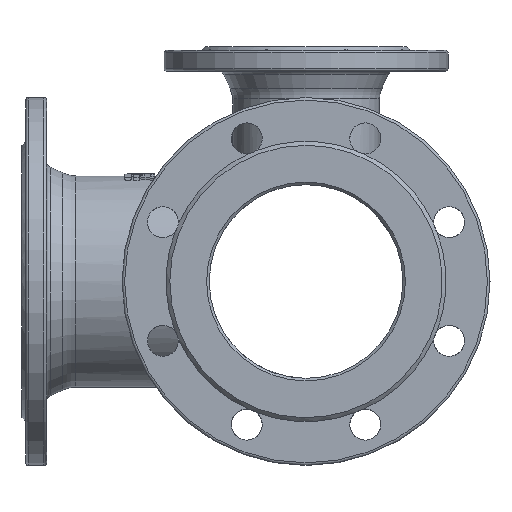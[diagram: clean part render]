
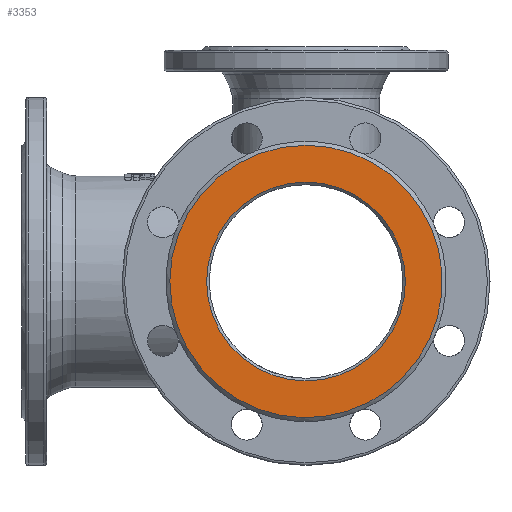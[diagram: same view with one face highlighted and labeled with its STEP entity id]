
A CAD part, left-side view. The second image highlights one B-rep face of the part: STEP entity #3353.
In plain terms, the highlighted planar face has unit normal (-1, 0, 0).
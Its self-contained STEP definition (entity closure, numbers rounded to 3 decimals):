
#55 = CARTESIAN_POINT ( 'NONE',  ( -220., 0., 0. ) ) ;
#56 = DIRECTION ( 'NONE',  ( 1., 0., 0. ) ) ;
#57 = DIRECTION ( 'NONE',  ( 0., 0., -1. ) ) ;
#789 = CARTESIAN_POINT ( 'NONE',  ( -220., 0., 0. ) ) ;
#790 = DIRECTION ( 'NONE',  ( -1., 0., 0. ) ) ;
#791 = DIRECTION ( 'NONE',  ( 0., 0., 1. ) ) ;
#2025 = CARTESIAN_POINT ( 'NONE',  ( -220., 75., 0. ) ) ;
#2032 = PLANE ( 'NONE',  #3050 ) ;
#2041 = DIRECTION ( 'NONE',  ( 1., 0., 0. ) ) ;
#2042 = DIRECTION ( 'NONE',  ( 0., 0., -1. ) ) ;
#2869 = CARTESIAN_POINT ( 'NONE',  ( -220., 0., 105.5 ) ) ;
#2889 = CARTESIAN_POINT ( 'NONE',  ( -220., 0., -77. ) ) ;
#3050 = AXIS2_PLACEMENT_3D ( 'NONE', #2025, #2041, #2042 ) ;
#3088 = EDGE_CURVE ( 'NONE', #7883, #7883, #3898, .T. ) ;
#3353 = ADVANCED_FACE ( 'NONE', ( #4135, #4148 ), #2032, .F. ) ;
#3459 = EDGE_CURVE ( 'NONE', #7901, #7901, #7590, .T. ) ;
#3659 = AXIS2_PLACEMENT_3D ( 'NONE', #789, #790, #791 ) ;
#3814 = EDGE_LOOP ( 'NONE', ( #4400 ) ) ;
#3874 = EDGE_LOOP ( 'NONE', ( #4411 ) ) ;
#3898 = CIRCLE ( 'NONE', #3659, 105.5 ) ;
#4135 = FACE_BOUND ( 'NONE', #3814, .T. ) ;
#4148 = FACE_OUTER_BOUND ( 'NONE', #3874, .T. ) ;
#4400 = ORIENTED_EDGE ( 'NONE', *, *, #3459, .T. ) ;
#4411 = ORIENTED_EDGE ( 'NONE', *, *, #3088, .T. ) ;
#6127 = AXIS2_PLACEMENT_3D ( 'NONE', #55, #56, #57 ) ;
#7590 = CIRCLE ( 'NONE', #6127, 77. ) ;
#7883 = VERTEX_POINT ( 'NONE', #2869 ) ;
#7901 = VERTEX_POINT ( 'NONE', #2889 ) ;
